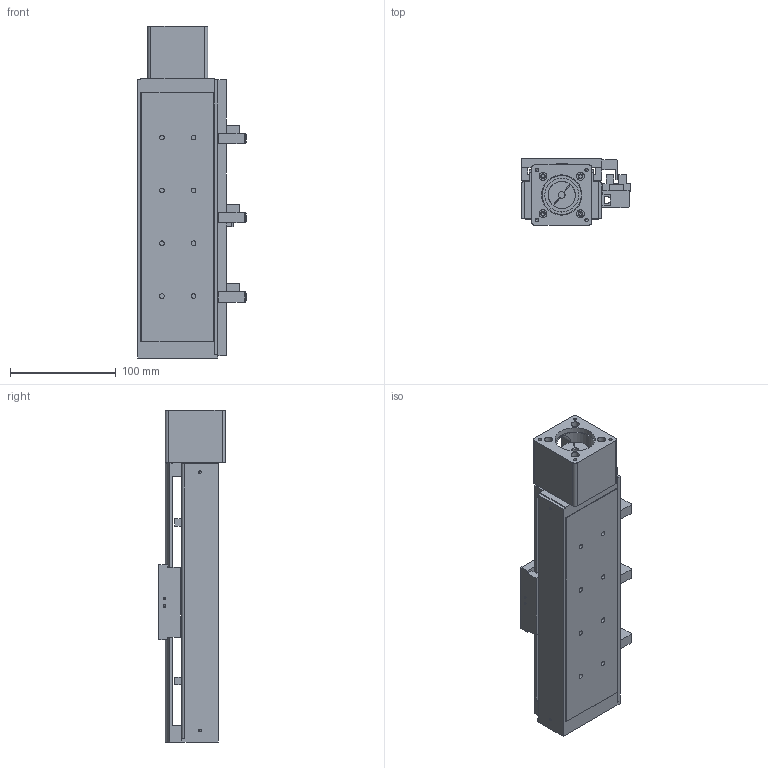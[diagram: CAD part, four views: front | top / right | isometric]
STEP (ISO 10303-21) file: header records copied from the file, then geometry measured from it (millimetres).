
FILE_DESCRIPTION((''),'2;1');
FILE_NAME('E:\uia actuator\UIA actuator 3d- 2009\Standard ball screw actuator\UIA076R9DC\UIA076R9DC-STEP file\with motor mount\UIA076R9DC step file 18Apr16\UIA076R9DC-150-R1205(or R1210)-M23-P13-C10-S.stp','2016-04-18T17:24:37',('h029'),(''),'Autodesk Inventor 11','Autodesk Inventor 11','');
FILE_SCHEMA(('AUTOMOTIVE_DESIGN { 1 0 10303 214 1 1 1 1 }'));
Length unit declared in the file: millimetre
Products named in the file (10): UIA076R9DC-150-R1205(or R1210)-M23-P13-C10-S; UIA076R9DC-150-BODY; UIA076R9DC-150-sensor rail; UIA076R9DC-CARRIAGE; UIA076R9DC-SENSOR FLAG; 01-100 0110 Motor MOUNT-M23; SOH-25C; SOH-25C-2; SOH-25C-3; SOH-25C-1
Assembly tree (9 placements, depth 3):
  UIA076R9DC-150-R1205(or R1210)-M23-P13-C10-S
    UIA076R9DC-150-BODY
    UIA076R9DC-150-sensor rail
    UIA076R9DC-CARRIAGE
    UIA076R9DC-SENSOR FLAG
    01-100 0110 Motor MOUNT-M23
    SOH-25C
      SOH-25C-2
      SOH-25C-3
      SOH-25C-1
Bounding box: 103 x 63 x 314 mm (x, y, z)
Volume: 566322.6 mm3; surface area: 213888.2 mm2
Topology: 8 solids, 8 shells, 404 faces, 1143 edges, 752 vertices
Faces by surface type: plane 283, cylinder 93, cone 21, bspline 7
Full cylindrical faces by diameter (mm): 2.459 x8, 3 x2, 3.242 x16, 3.5 x4, 4 x6, 4.5 x12, 6 x2, 7.5 x12, 22 x1, 25.5 x3, 32 x1, 37 x1, 38.1 x1
Entity records: 12986 total; most frequent: CARTESIAN_POINT 2600, DIRECTION 2050, ORIENTED_EDGE 2000, EDGE_CURVE 1000, VECTOR 760, LINE 760, VERTEX_POINT 705, AXIS2_PLACEMENT_3D 645
